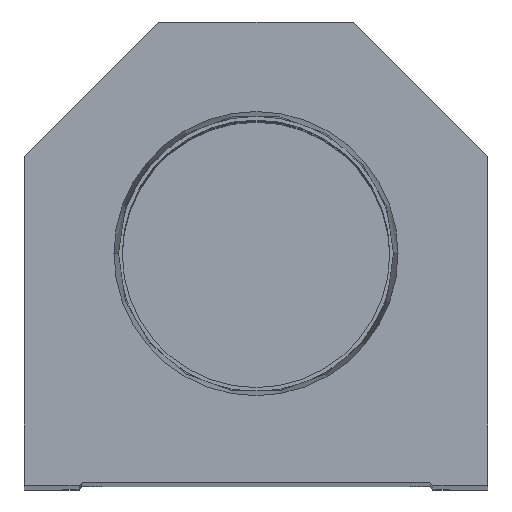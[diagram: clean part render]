
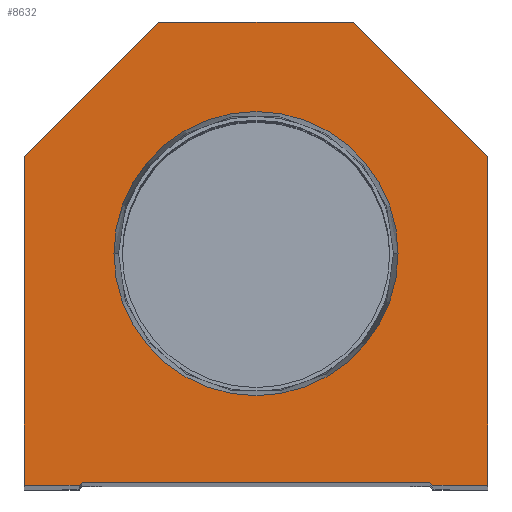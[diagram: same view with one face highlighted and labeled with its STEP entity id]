
A CAD part, top view. The second image highlights one B-rep face of the part: STEP entity #8632.
In plain terms, the highlighted planar face has unit normal (0, 0, 1).
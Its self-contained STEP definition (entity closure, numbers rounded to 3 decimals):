
#243 = EDGE_CURVE ( 'NONE', #17147, #5360, #19349, .T. ) ;
#394 = CARTESIAN_POINT ( 'NONE',  ( -29.1, 0., 0. ) ) ;
#461 = VERTEX_POINT ( 'NONE', #394 ) ;
#731 = LINE ( 'NONE', #16545, #12825 ) ;
#951 = CARTESIAN_POINT ( 'NONE',  ( -38.1, 0., 0. ) ) ;
#1307 = FACE_BOUND ( 'NONE', #12373, .T. ) ;
#1351 = EDGE_LOOP ( 'NONE', ( #28489, #18260, #6696, #27107, #23319, #14967, #2278, #6470, #25608, #13180 ) ) ;
#1796 = VERTEX_POINT ( 'NONE', #2384 ) ;
#1870 = CARTESIAN_POINT ( 'NONE',  ( 38.1, 0., 0. ) ) ;
#1984 = LINE ( 'NONE', #20159, #17960 ) ;
#2135 = DIRECTION ( 'NONE',  ( 1., 0., 0. ) ) ;
#2177 = VERTEX_POINT ( 'NONE', #15545 ) ;
#2278 = ORIENTED_EDGE ( 'NONE', *, *, #14835, .T. ) ;
#2384 = CARTESIAN_POINT ( 'NONE',  ( -38.1, 54.1, 0. ) ) ;
#2763 = CARTESIAN_POINT ( 'NONE',  ( 16., 76.2, 0. ) ) ;
#3013 = AXIS2_PLACEMENT_3D ( 'NONE', #19080, #23211, #10368 ) ;
#3286 = VECTOR ( 'NONE', #8657, 1000. ) ;
#3416 = EDGE_CURVE ( 'NONE', #1796, #24977, #22368, .T. ) ;
#3537 = DIRECTION ( 'NONE',  ( 0., 0., 1. ) ) ;
#3657 = EDGE_CURVE ( 'NONE', #4595, #1796, #24371, .T. ) ;
#4595 = VERTEX_POINT ( 'NONE', #24239 ) ;
#5319 = DIRECTION ( 'NONE',  ( 0., 1., 0. ) ) ;
#5360 = VERTEX_POINT ( 'NONE', #11718 ) ;
#5632 = EDGE_CURVE ( 'NONE', #9573, #6001, #731, .T. ) ;
#6001 = VERTEX_POINT ( 'NONE', #19886 ) ;
#6470 = ORIENTED_EDGE ( 'NONE', *, *, #14297, .T. ) ;
#6694 = DIRECTION ( 'NONE',  ( 0.707, -0.707, 0. ) ) ;
#6696 = ORIENTED_EDGE ( 'NONE', *, *, #19528, .T. ) ;
#6879 = EDGE_CURVE ( 'NONE', #24977, #461, #28354, .T. ) ;
#7814 = VERTEX_POINT ( 'NONE', #20178 ) ;
#8017 = LINE ( 'NONE', #21763, #18103 ) ;
#8243 = DIRECTION ( 'NONE',  ( 0., 0., 1. ) ) ;
#8245 = CARTESIAN_POINT ( 'NONE',  ( 28.6, 0.5, 0. ) ) ;
#8632 = ADVANCED_FACE ( 'NONE', ( #1307, #17129 ), #28510, .T. ) ;
#8657 = DIRECTION ( 'NONE',  ( 1., 0., 0. ) ) ;
#9022 = EDGE_CURVE ( 'NONE', #7814, #9573, #12162, .T. ) ;
#9326 = VECTOR ( 'NONE', #2135, 1000. ) ;
#9573 = VERTEX_POINT ( 'NONE', #1870 ) ;
#9956 = VECTOR ( 'NONE', #27325, 1000. ) ;
#10324 = DIRECTION ( 'NONE',  ( 1., 0., 0. ) ) ;
#10368 = DIRECTION ( 'NONE',  ( 1., 0., 0. ) ) ;
#10411 = ORIENTED_EDGE ( 'NONE', *, *, #243, .F. ) ;
#11153 = ORIENTED_EDGE ( 'NONE', *, *, #23501, .F. ) ;
#11348 = DIRECTION ( 'NONE',  ( -1., 0., 0. ) ) ;
#11718 = CARTESIAN_POINT ( 'NONE',  ( 23.374, 38.1, 0. ) ) ;
#12162 = LINE ( 'NONE', #12317, #16602 ) ;
#12317 = CARTESIAN_POINT ( 'NONE',  ( 28.6, 0., 0. ) ) ;
#12373 = EDGE_LOOP ( 'NONE', ( #11153, #10411 ) ) ;
#12598 = DIRECTION ( 'NONE',  ( -0.707, 0.707, 0. ) ) ;
#12642 = EDGE_CURVE ( 'NONE', #461, #22697, #13866, .T. ) ;
#12825 = VECTOR ( 'NONE', #5319, 1000. ) ;
#12901 = VERTEX_POINT ( 'NONE', #8245 ) ;
#13180 = ORIENTED_EDGE ( 'NONE', *, *, #3416, .T. ) ;
#13369 = LINE ( 'NONE', #17377, #9326 ) ;
#13866 = LINE ( 'NONE', #24789, #9956 ) ;
#14297 = EDGE_CURVE ( 'NONE', #2177, #4595, #20799, .T. ) ;
#14835 = EDGE_CURVE ( 'NONE', #6001, #2177, #8017, .T. ) ;
#14967 = ORIENTED_EDGE ( 'NONE', *, *, #5632, .T. ) ;
#15377 = DIRECTION ( 'NONE',  ( -0.707, -0.707, 0. ) ) ;
#15545 = CARTESIAN_POINT ( 'NONE',  ( 16., 76.2, 0. ) ) ;
#16251 = CARTESIAN_POINT ( 'NONE',  ( -23.374, 38.1, 0. ) ) ;
#16545 = CARTESIAN_POINT ( 'NONE',  ( 38.1, 0., 0. ) ) ;
#16602 = VECTOR ( 'NONE', #19267, 1000. ) ;
#16655 = VECTOR ( 'NONE', #11348, 1000. ) ;
#17129 = FACE_OUTER_BOUND ( 'NONE', #1351, .T. ) ;
#17147 = VERTEX_POINT ( 'NONE', #16251 ) ;
#17252 = CARTESIAN_POINT ( 'NONE',  ( -28.6, 0., 0. ) ) ;
#17294 = DIRECTION ( 'NONE',  ( 1., 0., 0. ) ) ;
#17377 = CARTESIAN_POINT ( 'NONE',  ( -28.6, 0.5, 0. ) ) ;
#17960 = VECTOR ( 'NONE', #6694, 1000. ) ;
#18103 = VECTOR ( 'NONE', #12598, 1000. ) ;
#18260 = ORIENTED_EDGE ( 'NONE', *, *, #12642, .T. ) ;
#19080 = CARTESIAN_POINT ( 'NONE',  ( 0., 38.1, 0. ) ) ;
#19267 = DIRECTION ( 'NONE',  ( 1., 0., 0. ) ) ;
#19349 = CIRCLE ( 'NONE', #20753, 23.374 ) ;
#19442 = AXIS2_PLACEMENT_3D ( 'NONE', #25804, #8243, #10324 ) ;
#19528 = EDGE_CURVE ( 'NONE', #22697, #12901, #13369, .T. ) ;
#19886 = CARTESIAN_POINT ( 'NONE',  ( 38.1, 54.1, 0. ) ) ;
#20159 = CARTESIAN_POINT ( 'NONE',  ( 14.55, 14.55, 0. ) ) ;
#20178 = CARTESIAN_POINT ( 'NONE',  ( 29.1, 0., 0. ) ) ;
#20460 = CIRCLE ( 'NONE', #3013, 23.374 ) ;
#20753 = AXIS2_PLACEMENT_3D ( 'NONE', #26427, #3537, #17294 ) ;
#20799 = LINE ( 'NONE', #2763, #16655 ) ;
#21357 = EDGE_CURVE ( 'NONE', #12901, #7814, #1984, .T. ) ;
#21661 = VECTOR ( 'NONE', #29024, 1000. ) ;
#21763 = CARTESIAN_POINT ( 'NONE',  ( 38.1, 54.1, 0. ) ) ;
#22368 = LINE ( 'NONE', #28736, #21661 ) ;
#22697 = VERTEX_POINT ( 'NONE', #23798 ) ;
#23211 = DIRECTION ( 'NONE',  ( 0., 0., 1. ) ) ;
#23319 = ORIENTED_EDGE ( 'NONE', *, *, #9022, .T. ) ;
#23501 = EDGE_CURVE ( 'NONE', #5360, #17147, #20460, .T. ) ;
#23798 = CARTESIAN_POINT ( 'NONE',  ( -28.6, 0.5, 0. ) ) ;
#24089 = CARTESIAN_POINT ( 'NONE',  ( -38.1, 54.1, 0. ) ) ;
#24239 = CARTESIAN_POINT ( 'NONE',  ( -16., 76.2, 0. ) ) ;
#24371 = LINE ( 'NONE', #24089, #26373 ) ;
#24789 = CARTESIAN_POINT ( 'NONE',  ( -14.55, 14.55, 0. ) ) ;
#24977 = VERTEX_POINT ( 'NONE', #951 ) ;
#25608 = ORIENTED_EDGE ( 'NONE', *, *, #3657, .T. ) ;
#25804 = CARTESIAN_POINT ( 'NONE',  ( 0., 0., 0. ) ) ;
#26373 = VECTOR ( 'NONE', #15377, 1000. ) ;
#26427 = CARTESIAN_POINT ( 'NONE',  ( 0., 38.1, 0. ) ) ;
#27107 = ORIENTED_EDGE ( 'NONE', *, *, #21357, .T. ) ;
#27325 = DIRECTION ( 'NONE',  ( 0.707, 0.707, 0. ) ) ;
#28354 = LINE ( 'NONE', #17252, #3286 ) ;
#28489 = ORIENTED_EDGE ( 'NONE', *, *, #6879, .T. ) ;
#28510 = PLANE ( 'NONE',  #19442 ) ;
#28736 = CARTESIAN_POINT ( 'NONE',  ( -38.1, 0., 0. ) ) ;
#29024 = DIRECTION ( 'NONE',  ( 0., -1., 0. ) ) ;
